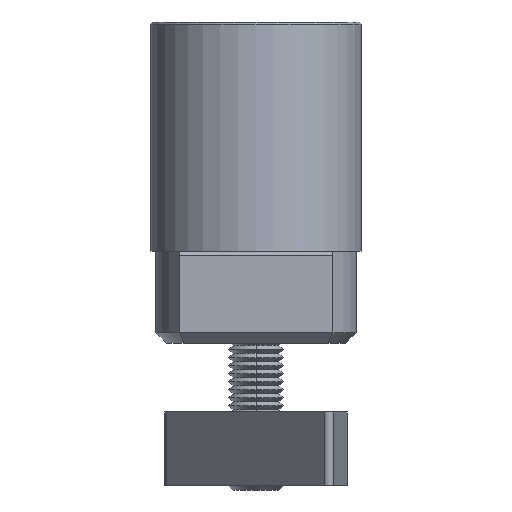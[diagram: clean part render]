
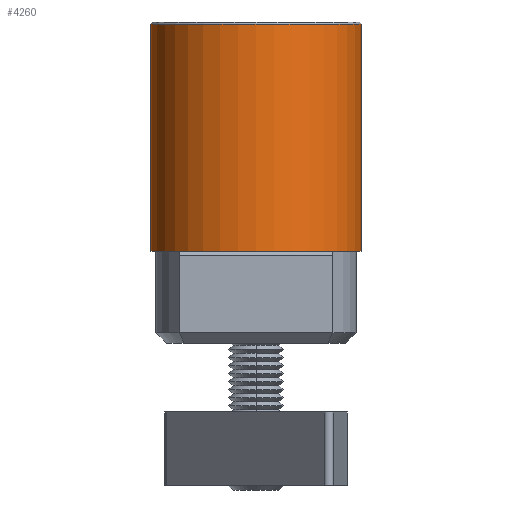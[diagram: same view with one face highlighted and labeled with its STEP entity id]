
A CAD part, front view. The second image highlights one B-rep face of the part: STEP entity #4260.
In plain terms, the highlighted cylindrical face has radius 23 mm (diameter 46 mm), a partial arc.
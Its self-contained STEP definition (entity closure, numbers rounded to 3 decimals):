
#2714 = DIRECTION ( 'NONE',  ( 1., 0., 0. ) ) ;
#2715 = DIRECTION ( 'NONE',  ( 0., 0., -1. ) ) ;
#2716 = CARTESIAN_POINT ( 'NONE',  ( 0., 0., 49.5 ) ) ;
#2717 = AXIS2_PLACEMENT_3D ( 'NONE', #2716, #2715, #2714 ) ;
#2718 = CIRCLE ( 'NONE', #2717, 23. ) ;
#3072 = LINE ( 'NONE', #3128, #3127 ) ;
#3073 = CARTESIAN_POINT ( 'NONE',  ( -23., 0., 0. ) ) ;
#3074 = CARTESIAN_POINT ( 'NONE',  ( 23., 0., 0. ) ) ;
#3075 = DIRECTION ( 'NONE',  ( 1., 0., 0. ) ) ;
#3076 = DIRECTION ( 'NONE',  ( 0., 0., 1. ) ) ;
#3077 = CARTESIAN_POINT ( 'NONE',  ( 0., 0., 0. ) ) ;
#3078 = AXIS2_PLACEMENT_3D ( 'NONE', #3077, #3076, #3075 ) ;
#3081 = CIRCLE ( 'NONE', #3078, 23. ) ;
#3087 = DIRECTION ( 'NONE',  ( 0., 0., -1. ) ) ;
#3088 = VECTOR ( 'NONE', #3087, 1000. ) ;
#3089 = CARTESIAN_POINT ( 'NONE',  ( -23., 0., 50. ) ) ;
#3090 = LINE ( 'NONE', #3089, #3088 ) ;
#3126 = DIRECTION ( 'NONE',  ( 0., 0., -1. ) ) ;
#3127 = VECTOR ( 'NONE', #3126, 1000. ) ;
#3128 = CARTESIAN_POINT ( 'NONE',  ( 23., 0., 50. ) ) ;
#3154 = DIRECTION ( 'NONE',  ( -1., 0., 0. ) ) ;
#3155 = DIRECTION ( 'NONE',  ( 0., 0., -1. ) ) ;
#3156 = AXIS2_PLACEMENT_3D ( 'NONE', #3158, #3155, #3154 ) ;
#3158 = CARTESIAN_POINT ( 'NONE',  ( 0., 0., 50. ) ) ;
#3159 = CYLINDRICAL_SURFACE ( 'NONE', #3156, 23. ) ;
#3160 = FACE_OUTER_BOUND ( 'NONE', #4262, .T. ) ;
#3477 = CARTESIAN_POINT ( 'NONE',  ( 23., 0., 49.5 ) ) ;
#3500 = CARTESIAN_POINT ( 'NONE',  ( -23., 0., 49.5 ) ) ;
#4008 = ORIENTED_EDGE ( 'NONE', *, *, #4238, .T. ) ;
#4013 = ORIENTED_EDGE ( 'NONE', *, *, #4235, .T. ) ;
#4014 = EDGE_CURVE ( 'NONE', #4479, #4513, #2718, .T. ) ;
#4016 = ORIENTED_EDGE ( 'NONE', *, *, #4014, .T. ) ;
#4235 = EDGE_CURVE ( 'NONE', #4513, #4241, #3090, .T. ) ;
#4238 = EDGE_CURVE ( 'NONE', #4241, #4240, #3081, .T. ) ;
#4240 = VERTEX_POINT ( 'NONE', #3074 ) ;
#4241 = VERTEX_POINT ( 'NONE', #3073 ) ;
#4247 = EDGE_CURVE ( 'NONE', #4479, #4240, #3072, .T. ) ;
#4260 = ADVANCED_FACE ( 'NONE', ( #3160 ), #3159, .T. ) ;
#4261 = ORIENTED_EDGE ( 'NONE', *, *, #4247, .F. ) ;
#4262 = EDGE_LOOP ( 'NONE', ( #4261, #4016, #4013, #4008 ) ) ;
#4479 = VERTEX_POINT ( 'NONE', #3477 ) ;
#4513 = VERTEX_POINT ( 'NONE', #3500 ) ;
